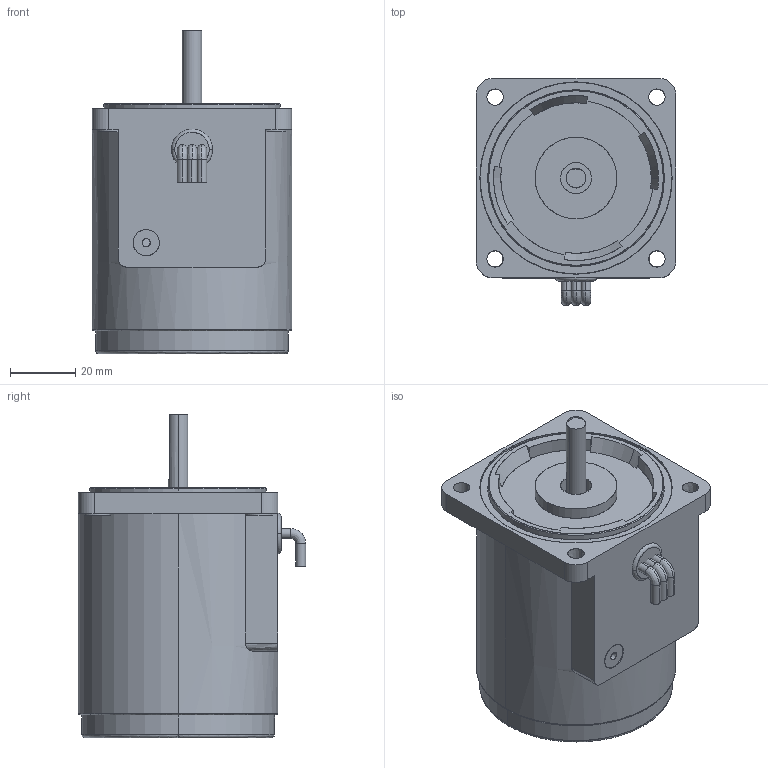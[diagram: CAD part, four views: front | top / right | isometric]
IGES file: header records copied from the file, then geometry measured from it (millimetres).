
Start section: SolidWorks IGES file using analytic representation for surfaces
Bounding box: 61 x 69.5 x 99 mm (x, y, z)
Surface area: 44780.7 mm2 (no closed solid volume)
Topology: 0 solids, 0 shells, 147 faces, 2856 edges, 2856 vertices
Faces by surface type: bspline 77, revolution 70
